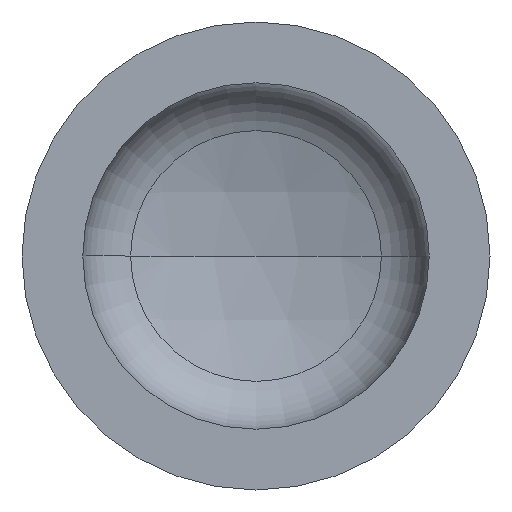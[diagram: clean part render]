
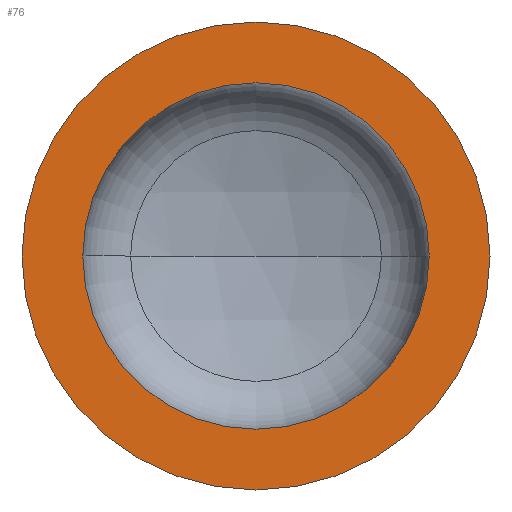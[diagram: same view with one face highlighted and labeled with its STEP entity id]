
A CAD part, front view. The second image highlights one B-rep face of the part: STEP entity #76.
In plain terms, the highlighted planar face has unit normal (0, -1, 0).
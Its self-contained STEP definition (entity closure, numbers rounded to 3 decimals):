
#6 = EDGE_LOOP ( 'NONE', ( #26, #84 ) ) ;
#24 = AXIS2_PLACEMENT_3D ( 'NONE', #238, #125, #378 ) ;
#26 = ORIENTED_EDGE ( 'NONE', *, *, #349, .T. ) ;
#28 = DIRECTION ( 'NONE',  ( 1., 0., 0. ) ) ;
#29 = VERTEX_POINT ( 'NONE', #364 ) ;
#43 = EDGE_LOOP ( 'NONE', ( #93, #352 ) ) ;
#63 = AXIS2_PLACEMENT_3D ( 'NONE', #179, #176, #28 ) ;
#76 = ADVANCED_FACE ( 'NONE', ( #219, #126 ), #242, .F. ) ;
#84 = ORIENTED_EDGE ( 'NONE', *, *, #137, .T. ) ;
#93 = ORIENTED_EDGE ( 'NONE', *, *, #138, .F. ) ;
#96 = VERTEX_POINT ( 'NONE', #284 ) ;
#100 = VERTEX_POINT ( 'NONE', #232 ) ;
#101 = VERTEX_POINT ( 'NONE', #340 ) ;
#106 = AXIS2_PLACEMENT_3D ( 'NONE', #309, #296, #294 ) ;
#108 = AXIS2_PLACEMENT_3D ( 'NONE', #306, #305, #303 ) ;
#118 = AXIS2_PLACEMENT_3D ( 'NONE', #282, #239, #237 ) ;
#125 = DIRECTION ( 'NONE',  ( 0., -1., 0. ) ) ;
#126 = FACE_OUTER_BOUND ( 'NONE', #6, .T. ) ;
#137 = EDGE_CURVE ( 'NONE', #96, #29, #141, .T. ) ;
#138 = EDGE_CURVE ( 'NONE', #100, #101, #395, .T. ) ;
#141 = CIRCLE ( 'NONE', #108, 254. ) ;
#176 = DIRECTION ( 'NONE',  ( 0., -1., 0. ) ) ;
#179 = CARTESIAN_POINT ( 'NONE',  ( 0., 0., 0. ) ) ;
#201 = CIRCLE ( 'NONE', #63, 188. ) ;
#219 = FACE_BOUND ( 'NONE', #43, .T. ) ;
#232 = CARTESIAN_POINT ( 'NONE',  ( 188., 0., 0. ) ) ;
#237 = DIRECTION ( 'NONE',  ( -1., 0., 0. ) ) ;
#238 = CARTESIAN_POINT ( 'NONE',  ( 0., 0., 0. ) ) ;
#239 = DIRECTION ( 'NONE',  ( 0., 1., 0. ) ) ;
#242 = PLANE ( 'NONE',  #118 ) ;
#282 = CARTESIAN_POINT ( 'NONE',  ( -254., 0., 0. ) ) ;
#284 = CARTESIAN_POINT ( 'NONE',  ( -254., 0., 0. ) ) ;
#294 = DIRECTION ( 'NONE',  ( 1., 0., 0. ) ) ;
#296 = DIRECTION ( 'NONE',  ( 0., -1., 0. ) ) ;
#303 = DIRECTION ( 'NONE',  ( 1., 0., 0. ) ) ;
#305 = DIRECTION ( 'NONE',  ( 0., -1., 0. ) ) ;
#306 = CARTESIAN_POINT ( 'NONE',  ( 0., 0., 0. ) ) ;
#309 = CARTESIAN_POINT ( 'NONE',  ( 0., 0., 0. ) ) ;
#315 = EDGE_CURVE ( 'NONE', #101, #100, #201, .T. ) ;
#340 = CARTESIAN_POINT ( 'NONE',  ( -188., 0., 0. ) ) ;
#349 = EDGE_CURVE ( 'NONE', #29, #96, #405, .T. ) ;
#352 = ORIENTED_EDGE ( 'NONE', *, *, #315, .F. ) ;
#364 = CARTESIAN_POINT ( 'NONE',  ( 254., 0., 0. ) ) ;
#378 = DIRECTION ( 'NONE',  ( 1., 0., 0. ) ) ;
#395 = CIRCLE ( 'NONE', #106, 188. ) ;
#405 = CIRCLE ( 'NONE', #24, 254. ) ;
